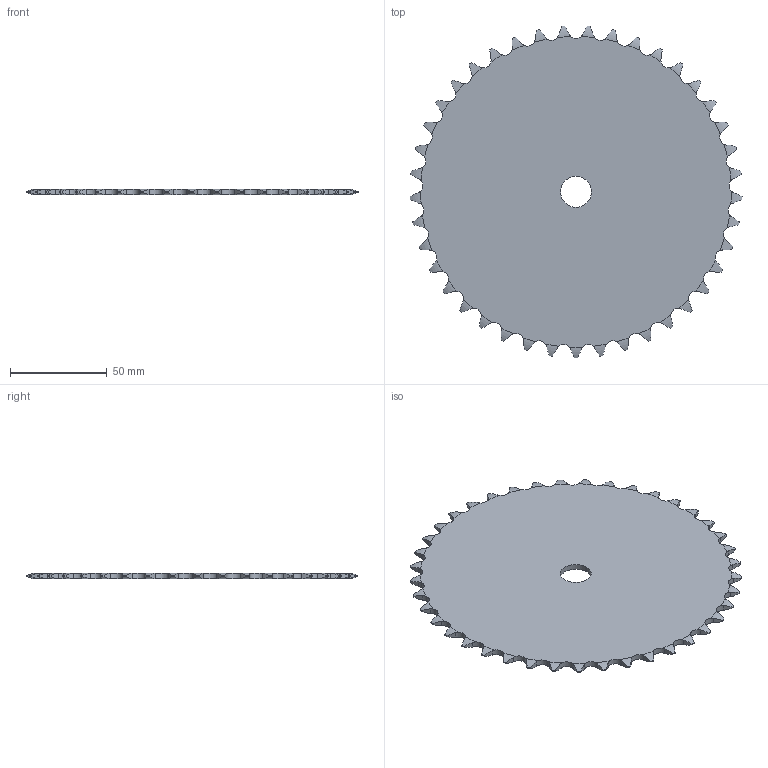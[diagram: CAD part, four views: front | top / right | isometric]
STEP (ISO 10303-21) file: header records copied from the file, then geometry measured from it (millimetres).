
FILE_DESCRIPTION((''),'2;1');
FILE_NAME('500-231-0041_PRT','2021-02-12T',('Brieden'),('Brieden'),'PRO/ENGINEER BY PARAMETRIC TECHNOLOGY CORPORATION, 2010160','PRO/ENGINEER BY PARAMETRIC TECHNOLOGY CORPORATION, 2010160','');
FILE_SCHEMA(('AUTOMOTIVE_DESIGN { 1 0 10303 214 1 1 1 1 }'));
Length unit declared in the file: millimetre
Products named in the file (1): 500-231-0041_PRT
Bounding box: 171.28 x 171.15 x 3 mm (x, y, z)
Volume: 61687.4 mm3; surface area: 43545.8 mm2
Topology: 1 solids, 1 shells, 250 faces, 744 edges, 496 vertices
Faces by surface type: cylinder 166, torus 82, plane 2
Entity records: 12256 total; most frequent: CARTESIAN_POINT 3641, ORIENTED_EDGE 1488, DIRECTION 1166, PRESENTATION_STYLE_ASSIGNMENT 745, STYLED_ITEM 745, CURVE_STYLE 744, EDGE_CURVE 744, AXIS2_PLACEMENT_3D 500
